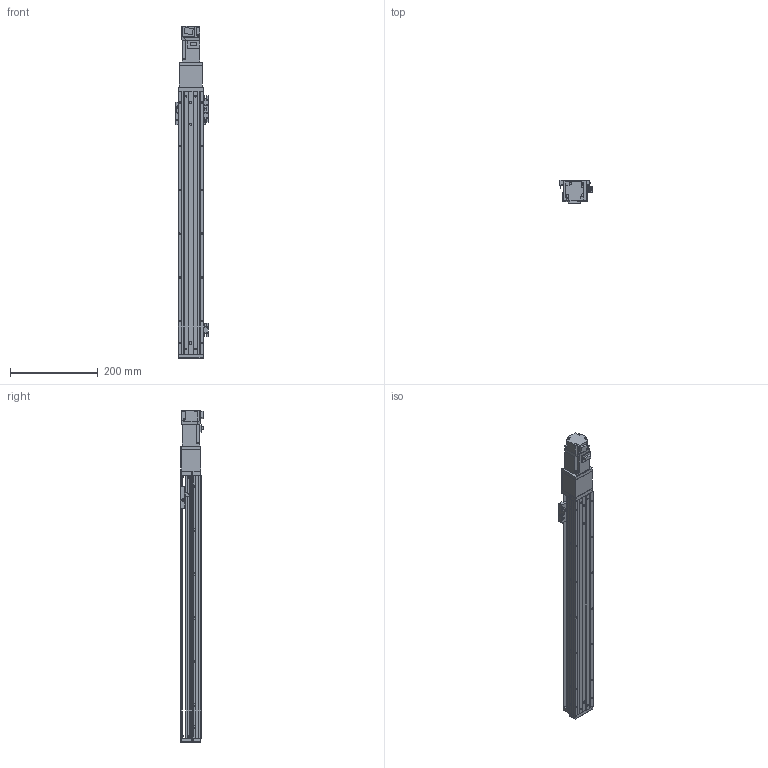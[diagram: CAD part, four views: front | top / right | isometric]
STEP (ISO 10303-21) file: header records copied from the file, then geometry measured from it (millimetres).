
FILE_DESCRIPTION (( 'STEP AP203' ), '1' );
FILE_NAME ('KTHA50-500-BC-M10-C4L.step', '2022-03-19T07:03:42', ( '微软用户' ), ( '微软中国' ), 'SwSTEP 2.0', 'SolidWorks 2020', '' );
FILE_SCHEMA (( 'CONFIG_CONTROL_DESIGN' ));
Length unit declared in the file: millimetre
Products named in the file (18): CTHA50-013; KTHA50-004; GBT 70.1-M4×12; HG-KR13（三菱）; KTHA50-005; CTHA60-016; KTHA50-500-BC-M10-C4L; GB¨uT 70.2-M3¡Á6_M3¡Á6; CTHA60-021; EE_SX911P_R; GBT 70.3-M3℅6; GBT77-2000 M3×3; CTHA50-027; KTHA50-001_600; GBT 70.1-M3℅6; CTHA50-006-2_CTHA60-006-2; KTHA50-002; CTHA60-017
Assembly tree (52 placements, depth 2):
  KTHA50-500-BC-M10-C4L
    KTHA50-001_600
    KTHA50-002
    KTHA50-004
    KTHA50-005
    GB¨uT 70.2-M3¡Á6_M3¡Á6  x6
    EE_SX911P_R  x3
    GBT77-2000 M3×3  x6
    GBT 70.1-M3℅6  x6
    CTHA60-017  x3
    GBT 70.1-M4×12  x10
    CTHA60-016  x2
    CTHA60-021  x2
    GBT 70.3-M3℅6  x6
    CTHA50-027
    CTHA50-006-2_CTHA60-006-2
    CTHA50-013
    HG-KR13（三菱）
Bounding box: 75.22 x 53.3 x 758.6 mm (x, y, z)
Volume: 1267852.5 mm3; surface area: 326238.7 mm2
Topology: 55 solids, 55 shells, 2186 faces, 5178 edges, 3172 vertices
Faces by surface type: plane 1244, cylinder 518, cone 320, torus 88, sphere 16
Entity records: 35540 total; most frequent: CARTESIAN_POINT 5802, DIRECTION 5730, ORIENTED_EDGE 5428, EDGE_CURVE 2714, AXIS2_PLACEMENT_3D 1913, VECTOR 1904, LINE 1904, VERTEX_POINT 1705
